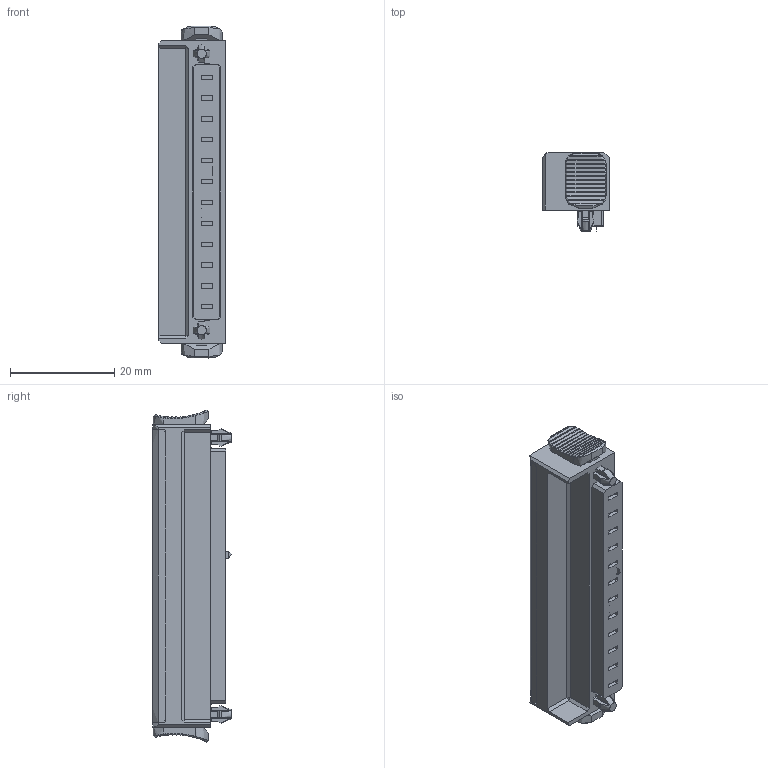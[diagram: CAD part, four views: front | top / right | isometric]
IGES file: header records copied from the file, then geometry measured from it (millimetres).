
Global section: file name: 21.12.212.113.2 v3; native system: unknown; preprocessor: unknown; author: unknown; organization: unknown; date: 20221117.084558; units: millimetre
Bounding box: 12.7 x 15.02 x 63.62 mm (x, y, z)
Volume: 6451.2 mm3; surface area: 5678.1 mm2
Topology: 1 solids, 1 shells, 1563 faces, 4504 edges, 2932 vertices
Faces by surface type: bspline 1563
